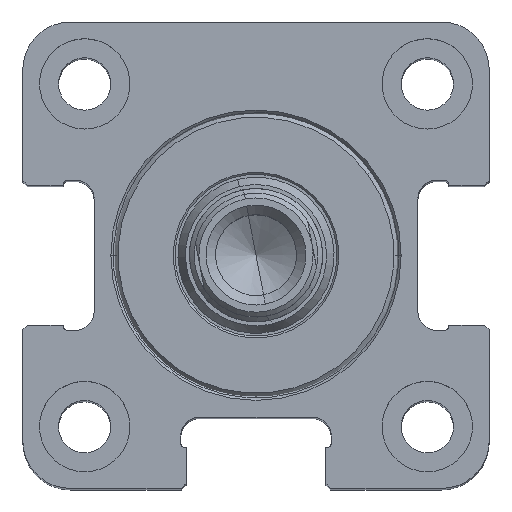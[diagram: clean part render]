
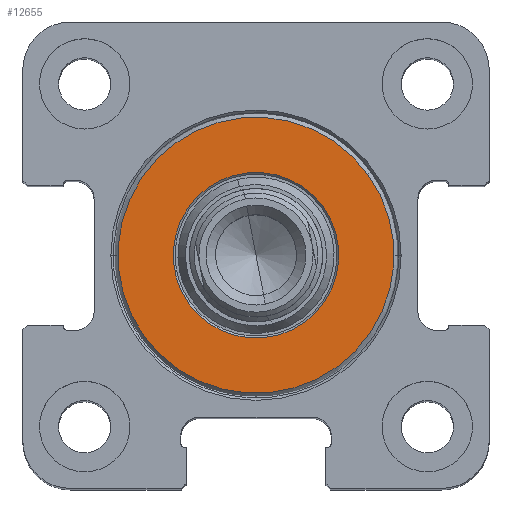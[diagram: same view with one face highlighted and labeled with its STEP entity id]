
A CAD part, top view. The second image highlights one B-rep face of the part: STEP entity #12655.
In plain terms, the highlighted planar face has unit normal (0, 0, 1) as drawn and (-1, 0, 0) by its records, which use the part's own axes.
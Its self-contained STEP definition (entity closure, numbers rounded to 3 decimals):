
#129 = AXIS2_PLACEMENT_3D ( 'NONE', #8457, #3247, #703 ) ;
#282 = EDGE_CURVE ( 'NONE', #13676, #5602, #16418, .T. ) ;
#703 = DIRECTION ( 'NONE',  ( 0., 0., -1. ) ) ;
#1233 = AXIS2_PLACEMENT_3D ( 'NONE', #15057, #6405, #5054 ) ;
#1344 = CARTESIAN_POINT ( 'NONE',  ( 0., 0., 0. ) ) ;
#1508 = ORIENTED_EDGE ( 'NONE', *, *, #13364, .T. ) ;
#2186 = FACE_OUTER_BOUND ( 'NONE', #3816, .T. ) ;
#2257 = CARTESIAN_POINT ( 'NONE',  ( 0., 0., -14.5 ) ) ;
#3247 = DIRECTION ( 'NONE',  ( -1., 0., 0. ) ) ;
#3816 = EDGE_LOOP ( 'NONE', ( #14455, #1508 ) ) ;
#4478 = DIRECTION ( 'NONE',  ( 0., 0., -1. ) ) ;
#4708 = CIRCLE ( 'NONE', #129, 14.5 ) ;
#5054 = DIRECTION ( 'NONE',  ( 0., 0., -1. ) ) ;
#5482 = DIRECTION ( 'NONE',  ( 0., 0., -1. ) ) ;
#5602 = VERTEX_POINT ( 'NONE', #12447 ) ;
#6405 = DIRECTION ( 'NONE',  ( 1., 0., 0. ) ) ;
#6586 = CARTESIAN_POINT ( 'NONE',  ( 0., 0., 14.5 ) ) ;
#7082 = CIRCLE ( 'NONE', #10551, 14.5 ) ;
#7092 = DIRECTION ( 'NONE',  ( -1., 0., 0. ) ) ;
#7373 = CIRCLE ( 'NONE', #14080, 8.7 ) ;
#8457 = CARTESIAN_POINT ( 'NONE',  ( 0., 0., 0. ) ) ;
#8501 = CARTESIAN_POINT ( 'NONE',  ( 0., 0., 8.7 ) ) ;
#9153 = AXIS2_PLACEMENT_3D ( 'NONE', #11944, #14394, #5482 ) ;
#9562 = EDGE_LOOP ( 'NONE', ( #15175, #10635 ) ) ;
#9927 = PLANE ( 'NONE',  #1233 ) ;
#10551 = AXIS2_PLACEMENT_3D ( 'NONE', #10853, #7092, #4478 ) ;
#10635 = ORIENTED_EDGE ( 'NONE', *, *, #16549, .T. ) ;
#10666 = EDGE_CURVE ( 'NONE', #14166, #12506, #4708, .T. ) ;
#10853 = CARTESIAN_POINT ( 'NONE',  ( 0., 0., 0. ) ) ;
#11944 = CARTESIAN_POINT ( 'NONE',  ( 0., 0., 0. ) ) ;
#12447 = CARTESIAN_POINT ( 'NONE',  ( 0., 0., -8.7 ) ) ;
#12506 = VERTEX_POINT ( 'NONE', #6586 ) ;
#12655 = ADVANCED_FACE ( 'NONE', ( #16331, #2186 ), #9927, .F. ) ;
#13364 = EDGE_CURVE ( 'NONE', #12506, #14166, #7082, .T. ) ;
#13676 = VERTEX_POINT ( 'NONE', #8501 ) ;
#14080 = AXIS2_PLACEMENT_3D ( 'NONE', #1344, #15310, #16498 ) ;
#14166 = VERTEX_POINT ( 'NONE', #2257 ) ;
#14394 = DIRECTION ( 'NONE',  ( 1., 0., 0. ) ) ;
#14455 = ORIENTED_EDGE ( 'NONE', *, *, #10666, .T. ) ;
#15057 = CARTESIAN_POINT ( 'NONE',  ( 0., 7., 0. ) ) ;
#15175 = ORIENTED_EDGE ( 'NONE', *, *, #282, .T. ) ;
#15310 = DIRECTION ( 'NONE',  ( 1., 0., 0. ) ) ;
#16331 = FACE_BOUND ( 'NONE', #9562, .T. ) ;
#16418 = CIRCLE ( 'NONE', #9153, 8.7 ) ;
#16498 = DIRECTION ( 'NONE',  ( 0., 0., -1. ) ) ;
#16549 = EDGE_CURVE ( 'NONE', #5602, #13676, #7373, .T. ) ;
